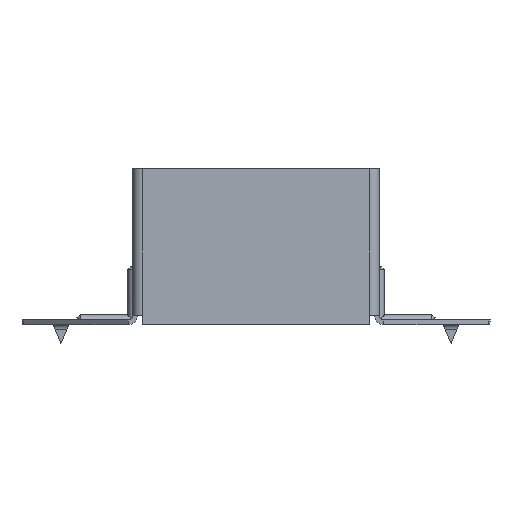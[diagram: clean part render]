
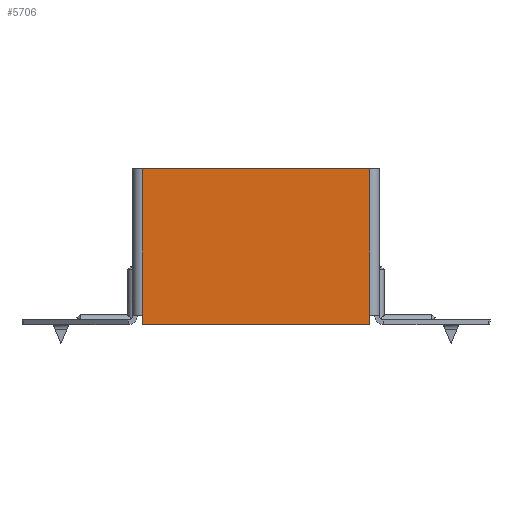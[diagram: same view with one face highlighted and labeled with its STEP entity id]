
A CAD part, front view. The second image highlights one B-rep face of the part: STEP entity #5706.
In plain terms, the highlighted planar face has unit normal (0, -1, 0).
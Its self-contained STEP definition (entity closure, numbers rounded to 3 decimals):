
#142 = DIRECTION ( 'NONE',  ( 0., 0., -1. ) ) ;
#201 = EDGE_CURVE ( 'NONE', #14824, #445, #13016, .T. ) ;
#426 = LINE ( 'NONE', #1128, #6287 ) ;
#445 = VERTEX_POINT ( 'NONE', #10489 ) ;
#528 = CARTESIAN_POINT ( 'NONE',  ( 36.5, 0., -70. ) ) ;
#1128 = CARTESIAN_POINT ( 'NONE',  ( -38., 0., -70. ) ) ;
#2509 = EDGE_CURVE ( 'NONE', #10126, #16354, #16027, .T. ) ;
#2534 = EDGE_CURVE ( 'NONE', #445, #10126, #14057, .T. ) ;
#2828 = LINE ( 'NONE', #18260, #3264 ) ;
#2845 = DIRECTION ( 'NONE',  ( 0., 0., 1. ) ) ;
#3105 = FACE_OUTER_BOUND ( 'NONE', #9198, .T. ) ;
#3225 = DIRECTION ( 'NONE',  ( 0., 0., 1. ) ) ;
#3264 = VECTOR ( 'NONE', #12487, 1000. ) ;
#4058 = DIRECTION ( 'NONE',  ( -1., 0., 0. ) ) ;
#4344 = CARTESIAN_POINT ( 'NONE',  ( -36.5, 0., 0. ) ) ;
#4592 = VECTOR ( 'NONE', #2845, 1000. ) ;
#4987 = CARTESIAN_POINT ( 'NONE',  ( 0., 0., -20. ) ) ;
#5589 = VERTEX_POINT ( 'NONE', #18507 ) ;
#5706 = ADVANCED_FACE ( 'NONE', ( #3105 ), #6059, .F. ) ;
#6059 = PLANE ( 'NONE',  #16146 ) ;
#6287 = VECTOR ( 'NONE', #4058, 1000. ) ;
#6431 = VERTEX_POINT ( 'NONE', #14657 ) ;
#7430 = DIRECTION ( 'NONE',  ( 0., 0., 1. ) ) ;
#7487 = CARTESIAN_POINT ( 'NONE',  ( 36.5, 0., -70. ) ) ;
#7623 = VECTOR ( 'NONE', #7430, 1000. ) ;
#7940 = DIRECTION ( 'NONE',  ( -1., 0., 0. ) ) ;
#8197 = CARTESIAN_POINT ( 'NONE',  ( -36.5, 0., -20. ) ) ;
#8741 = ORIENTED_EDGE ( 'NONE', *, *, #2534, .T. ) ;
#8921 = DIRECTION ( 'NONE',  ( 0., 1., 0. ) ) ;
#9198 = EDGE_LOOP ( 'NONE', ( #12218, #10618, #13978, #11609, #9864, #8741 ) ) ;
#9313 = LINE ( 'NONE', #4344, #14250 ) ;
#9569 = VECTOR ( 'NONE', #7940, 1000. ) ;
#9864 = ORIENTED_EDGE ( 'NONE', *, *, #201, .T. ) ;
#10126 = VERTEX_POINT ( 'NONE', #17847 ) ;
#10489 = CARTESIAN_POINT ( 'NONE',  ( 36.5, 0., -67. ) ) ;
#10618 = ORIENTED_EDGE ( 'NONE', *, *, #12814, .T. ) ;
#11609 = ORIENTED_EDGE ( 'NONE', *, *, #17363, .F. ) ;
#12218 = ORIENTED_EDGE ( 'NONE', *, *, #2509, .T. ) ;
#12487 = DIRECTION ( 'NONE',  ( 0., 0., -1. ) ) ;
#12814 = EDGE_CURVE ( 'NONE', #16354, #6431, #2828, .T. ) ;
#13016 = LINE ( 'NONE', #7487, #7623 ) ;
#13327 = EDGE_CURVE ( 'NONE', #6431, #5589, #9313, .T. ) ;
#13978 = ORIENTED_EDGE ( 'NONE', *, *, #13327, .T. ) ;
#14057 = LINE ( 'NONE', #14209, #4592 ) ;
#14209 = CARTESIAN_POINT ( 'NONE',  ( 36.5, 0., -70. ) ) ;
#14250 = VECTOR ( 'NONE', #142, 1000. ) ;
#14657 = CARTESIAN_POINT ( 'NONE',  ( -36.5, 0., -67. ) ) ;
#14689 = CARTESIAN_POINT ( 'NONE',  ( 0., 0., 0. ) ) ;
#14824 = VERTEX_POINT ( 'NONE', #528 ) ;
#16027 = LINE ( 'NONE', #4987, #9569 ) ;
#16146 = AXIS2_PLACEMENT_3D ( 'NONE', #14689, #8921, #3225 ) ;
#16354 = VERTEX_POINT ( 'NONE', #8197 ) ;
#17363 = EDGE_CURVE ( 'NONE', #14824, #5589, #426, .T. ) ;
#17847 = CARTESIAN_POINT ( 'NONE',  ( 36.5, 0., -20. ) ) ;
#18260 = CARTESIAN_POINT ( 'NONE',  ( -36.5, 0., 0. ) ) ;
#18507 = CARTESIAN_POINT ( 'NONE',  ( -36.5, 0., -70. ) ) ;
